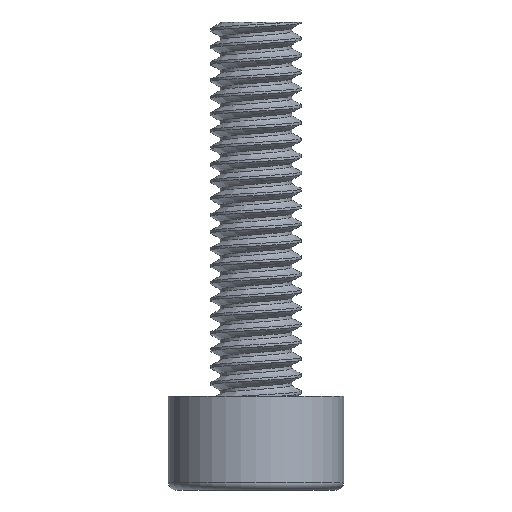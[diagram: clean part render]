
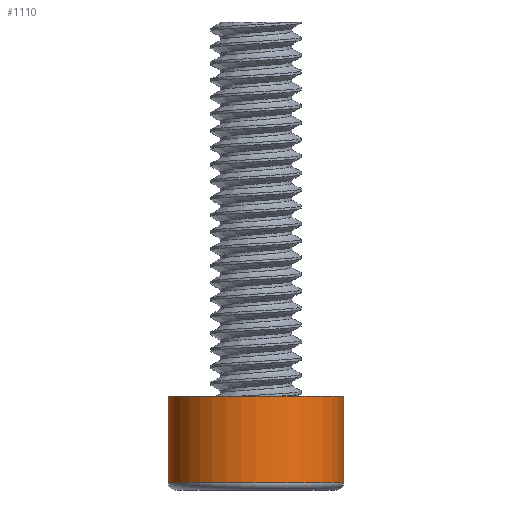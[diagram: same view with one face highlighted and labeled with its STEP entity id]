
A CAD part, front view. The second image highlights one B-rep face of the part: STEP entity #1110.
In plain terms, the highlighted cylindrical face has radius 2.34 mm (diameter 4.68 mm), a full revolution.
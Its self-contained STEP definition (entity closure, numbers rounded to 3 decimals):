
#81=FACE_OUTER_BOUND('',#142,.T.);
#142=EDGE_LOOP('',(#965,#966,#967,#968));
#159=CIRCLE('',#1188,2.34);
#162=CIRCLE('',#1192,2.34);
#305=LINE('',#4573,#369);
#369=VECTOR('',#1367,2.34);
#486=VERTEX_POINT('',#4565);
#488=VERTEX_POINT('',#4571);
#648=EDGE_CURVE('',#486,#486,#159,.T.);
#651=EDGE_CURVE('',#488,#488,#162,.T.);
#652=EDGE_CURVE('',#488,#486,#305,.T.);
#965=ORIENTED_EDGE('',*,*,#651,.F.);
#966=ORIENTED_EDGE('',*,*,#652,.T.);
#967=ORIENTED_EDGE('',*,*,#648,.F.);
#968=ORIENTED_EDGE('',*,*,#652,.F.);
#1058=CYLINDRICAL_SURFACE('',#1191,2.34);
#1110=ADVANCED_FACE('',(#81),#1058,.T.);
#1188=AXIS2_PLACEMENT_3D('',#4566,#1357,#1358);
#1191=AXIS2_PLACEMENT_3D('',#4570,#1363,#1364);
#1192=AXIS2_PLACEMENT_3D('',#4572,#1365,#1366);
#1357=DIRECTION('center_axis',(0.,0.,-1.));
#1358=DIRECTION('ref_axis',(1.,0.,0.));
#1363=DIRECTION('center_axis',(0.,0.,1.));
#1364=DIRECTION('ref_axis',(1.,0.,0.));
#1365=DIRECTION('center_axis',(0.,0.,1.));
#1366=DIRECTION('ref_axis',(1.,0.,0.));
#1367=DIRECTION('',(0.,0.,-1.));
#4565=CARTESIAN_POINT('',(4.66,0.,0.2));
#4566=CARTESIAN_POINT('Origin',(7.,0.,0.2));
#4570=CARTESIAN_POINT('Origin',(7.,0.,0.));
#4571=CARTESIAN_POINT('',(4.66,0.,2.5));
#4572=CARTESIAN_POINT('Origin',(7.,0.,2.5));
#4573=CARTESIAN_POINT('',(4.66,0.,0.));
